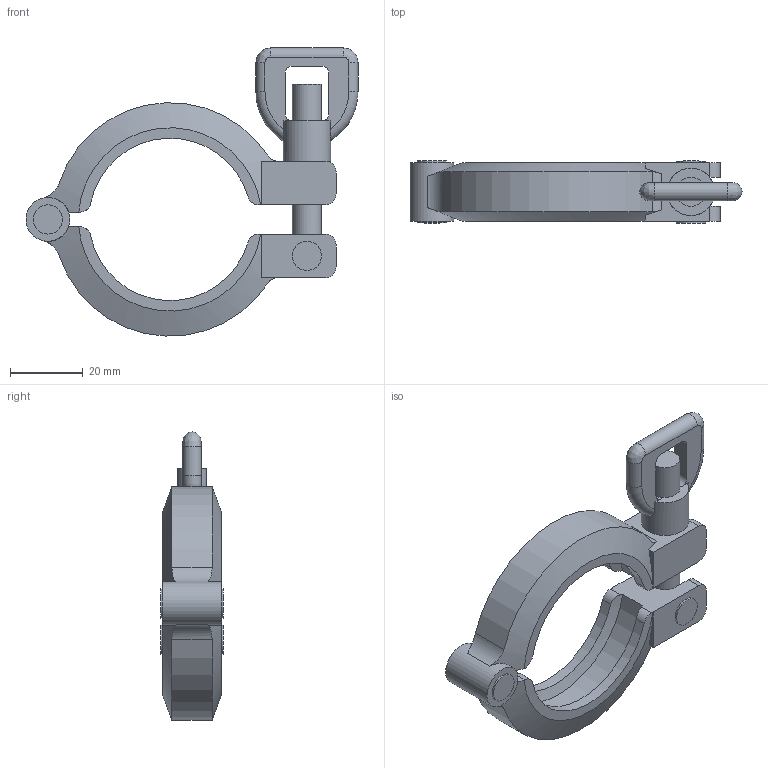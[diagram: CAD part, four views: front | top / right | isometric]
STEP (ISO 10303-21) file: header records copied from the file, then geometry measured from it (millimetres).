
FILE_DESCRIPTION(/* description */ ('ＯＳＵ'),/* implementation_level */ '2;1');
FILE_NAME(/* name */ 'C:\Users\Fujimoto-s\OneDrive\Inventor\WorkSpace\\X2\305D306E4ED6\X0\\ホームページ用\\X2\30C030A630F330ED30FC30C97D206750\X0\\サニタリー継手\CP2K-1.5S\CP2K-1.5S.stp',/* time_stamp */ '2024-08-09T09:26:18+09:00',/* author */ ('Fujimoto-s'),/* organization */ (''),/* preprocessor_version */ 'ST-DEVELOPER v15.2',/* originating_system */ 'Autodesk Inventor 2014',/* authorisation */ '');
FILE_SCHEMA (('AUTOMOTIVE_DESIGN { 1 0 10303 214 3 1 1 }'));
Length unit declared in the file: millimetre
Products named in the file (1): CP2K-1.5S
Bounding box: 91 x 17 x 78.97 mm (x, y, z)
Volume: 29157 mm3; surface area: 13246.3 mm2
Topology: 1 solids, 1 shells, 106 faces, 303 edges, 201 vertices
Faces by surface type: plane 49, cylinder 45, cone 8, torus 2, bspline 2
Full cylindrical faces by diameter (mm): 8 x6, 12 x1, 13 x1
Entity records: 3629 total; most frequent: CARTESIAN_POINT 911, ORIENTED_EDGE 590, DIRECTION 542, EDGE_CURVE 293, AXIS2_PLACEMENT_3D 202, VERTEX_POINT 199, LINE 138, VECTOR 138
